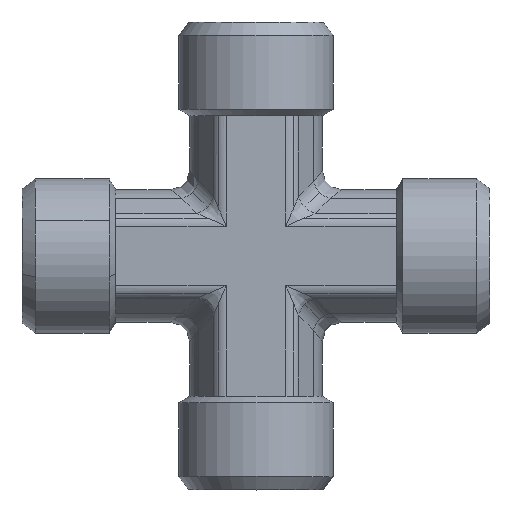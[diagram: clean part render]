
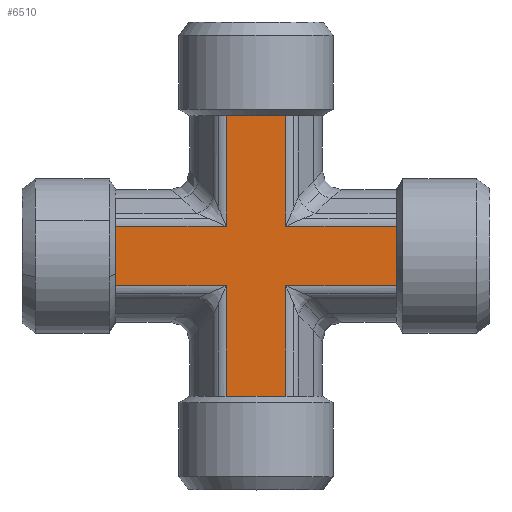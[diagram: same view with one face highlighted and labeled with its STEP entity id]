
A CAD part, top view. The second image highlights one B-rep face of the part: STEP entity #6510.
In plain terms, the highlighted planar face has unit normal (0, 0, 1) as drawn and (0, -1, 0) by its records, which use the part's own axes.
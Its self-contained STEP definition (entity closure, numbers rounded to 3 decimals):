
#361=CARTESIAN_POINT('',(-1.44,-6.8,3.06));
#362=VERTEX_POINT('',#361);
#370=CARTESIAN_POINT('',(9.9,-6.8,3.06));
#371=VERTEX_POINT('',#370);
#372=CARTESIAN_POINT('',(-1.44,-6.8,3.06));
#373=DIRECTION('',(1.0,0.0,0.0));
#374=VECTOR('',#373,11.34);
#375=LINE('',#372,#374);
#376=EDGE_CURVE('',#362,#371,#375,.T.);
#445=CARTESIAN_POINT('',(-1.44,-6.8,-3.06));
#446=VERTEX_POINT('',#445);
#454=CARTESIAN_POINT('',(-1.44,-6.8,-14.4));
#455=VERTEX_POINT('',#454);
#456=CARTESIAN_POINT('',(-1.44,-6.8,-3.06));
#457=DIRECTION('',(0.0,0.0,-1.0));
#458=VECTOR('',#457,11.34);
#459=LINE('',#456,#458);
#460=EDGE_CURVE('',#446,#455,#459,.T.);
#487=CARTESIAN_POINT('',(-7.56,-6.8,3.06));
#488=VERTEX_POINT('',#487);
#496=CARTESIAN_POINT('',(-7.56,-6.8,14.4));
#497=VERTEX_POINT('',#496);
#498=CARTESIAN_POINT('',(-7.56,-6.8,3.06));
#499=DIRECTION('',(0.0,0.0,1.0));
#500=VECTOR('',#499,11.34);
#501=LINE('',#498,#500);
#502=EDGE_CURVE('',#488,#497,#501,.T.);
#529=CARTESIAN_POINT('',(-18.9,-6.8,3.06));
#530=VERTEX_POINT('',#529);
#538=CARTESIAN_POINT('',(-18.9,-6.8,3.06));
#539=DIRECTION('',(1.0,0.0,0.0));
#540=VECTOR('',#539,11.34);
#541=LINE('',#538,#540);
#542=EDGE_CURVE('',#530,#488,#541,.T.);
#611=CARTESIAN_POINT('',(-7.56,-6.8,-3.06));
#612=VERTEX_POINT('',#611);
#620=CARTESIAN_POINT('',(-18.9,-6.8,-3.06));
#621=VERTEX_POINT('',#620);
#622=CARTESIAN_POINT('',(-7.56,-6.8,-3.06));
#623=DIRECTION('',(-1.0,0.0,0.0));
#624=VECTOR('',#623,11.34);
#625=LINE('',#622,#624);
#626=EDGE_CURVE('',#612,#621,#625,.T.);
#1520=CARTESIAN_POINT('',(-18.9,-6.8,0.));
#1521=VERTEX_POINT('',#1520);
#1821=CARTESIAN_POINT('',(-4.5,-6.8,14.4));
#1822=VERTEX_POINT('',#1821);
#2173=CARTESIAN_POINT('',(9.9,-6.8,0.));
#2174=VERTEX_POINT('',#2173);
#3138=CARTESIAN_POINT('',(-4.5,-6.8,-14.4));
#3139=VERTEX_POINT('',#3138);
#3262=CARTESIAN_POINT('',(-4.5,-6.8,-14.4));
#3263=DIRECTION('',(1.0,0.0,0.0));
#3264=VECTOR('',#3263,3.06);
#3265=LINE('',#3262,#3264);
#3266=EDGE_CURVE('',#3139,#455,#3265,.T.);
#3277=CARTESIAN_POINT('',(-7.56,-6.8,-14.4));
#3278=VERTEX_POINT('',#3277);
#3279=CARTESIAN_POINT('',(-7.56,-6.8,-14.4));
#3280=DIRECTION('',(1.0,0.0,0.0));
#3281=VECTOR('',#3280,3.06);
#3282=LINE('',#3279,#3281);
#3283=EDGE_CURVE('',#3278,#3139,#3282,.T.);
#3568=CARTESIAN_POINT('',(9.9,-6.8,-3.06));
#3569=VERTEX_POINT('',#3568);
#3570=CARTESIAN_POINT('',(9.9,-6.8,-3.06));
#3571=DIRECTION('',(0.0,0.0,1.0));
#3572=VECTOR('',#3571,3.06);
#3573=LINE('',#3570,#3572);
#3574=EDGE_CURVE('',#3569,#2174,#3573,.T.);
#3615=CARTESIAN_POINT('',(9.9,-6.8,0.));
#3616=DIRECTION('',(0.0,0.0,1.0));
#3617=VECTOR('',#3616,3.06);
#3618=LINE('',#3615,#3617);
#3619=EDGE_CURVE('',#2174,#371,#3618,.T.);
#3932=CARTESIAN_POINT('',(-1.44,-6.8,14.4));
#3933=VERTEX_POINT('',#3932);
#3934=CARTESIAN_POINT('',(-1.44,-6.8,14.4));
#3935=DIRECTION('',(-1.0,0.0,0.0));
#3936=VECTOR('',#3935,3.06);
#3937=LINE('',#3934,#3936);
#3938=EDGE_CURVE('',#3933,#1822,#3937,.T.);
#3979=CARTESIAN_POINT('',(-4.5,-6.8,14.4));
#3980=DIRECTION('',(-1.0,0.0,0.0));
#3981=VECTOR('',#3980,3.06);
#3982=LINE('',#3979,#3981);
#3983=EDGE_CURVE('',#1822,#497,#3982,.T.);
#4277=CARTESIAN_POINT('',(-18.9,-6.8,3.06));
#4278=DIRECTION('',(0.0,0.0,-1.0));
#4279=VECTOR('',#4278,3.06);
#4280=LINE('',#4277,#4279);
#4281=EDGE_CURVE('',#530,#1521,#4280,.T.);
#4324=CARTESIAN_POINT('',(-18.9,-6.8,0.));
#4325=DIRECTION('',(0.0,0.0,-1.0));
#4326=VECTOR('',#4325,3.06);
#4327=LINE('',#4324,#4326);
#4328=EDGE_CURVE('',#1521,#621,#4327,.T.);
#6472=CARTESIAN_POINT('',(-4.5,-6.8,-3.926));
#6473=DIRECTION('',(0.0,-1.0,0.0));
#6474=DIRECTION('',(0.0,0.0,-1.0));
#6475=AXIS2_PLACEMENT_3D('',#6472,#6473,#6474);
#6476=PLANE('',#6475);
#6477=ORIENTED_EDGE('',*,*,#626,.F.);
#6478=CARTESIAN_POINT('',(-7.56,-6.8,-3.06));
#6479=DIRECTION('',(0.0,0.0,-1.0));
#6480=VECTOR('',#6479,11.34);
#6481=LINE('',#6478,#6480);
#6482=EDGE_CURVE('',#612,#3278,#6481,.T.);
#6483=ORIENTED_EDGE('',*,*,#6482,.T.);
#6484=ORIENTED_EDGE('',*,*,#3283,.T.);
#6485=ORIENTED_EDGE('',*,*,#3266,.T.);
#6486=ORIENTED_EDGE('',*,*,#460,.F.);
#6487=CARTESIAN_POINT('',(-1.44,-6.8,-3.06));
#6488=DIRECTION('',(1.0,0.0,0.0));
#6489=VECTOR('',#6488,11.34);
#6490=LINE('',#6487,#6489);
#6491=EDGE_CURVE('',#446,#3569,#6490,.T.);
#6492=ORIENTED_EDGE('',*,*,#6491,.T.);
#6493=ORIENTED_EDGE('',*,*,#3574,.T.);
#6494=ORIENTED_EDGE('',*,*,#3619,.T.);
#6495=ORIENTED_EDGE('',*,*,#376,.F.);
#6496=CARTESIAN_POINT('',(-1.44,-6.8,3.06));
#6497=DIRECTION('',(0.0,0.0,1.0));
#6498=VECTOR('',#6497,11.34);
#6499=LINE('',#6496,#6498);
#6500=EDGE_CURVE('',#362,#3933,#6499,.T.);
#6501=ORIENTED_EDGE('',*,*,#6500,.T.);
#6502=ORIENTED_EDGE('',*,*,#3938,.T.);
#6503=ORIENTED_EDGE('',*,*,#3983,.T.);
#6504=ORIENTED_EDGE('',*,*,#502,.F.);
#6505=ORIENTED_EDGE('',*,*,#542,.F.);
#6506=ORIENTED_EDGE('',*,*,#4281,.T.);
#6507=ORIENTED_EDGE('',*,*,#4328,.T.);
#6508=EDGE_LOOP('',(#6477,#6483,#6484,#6485,#6486,#6492,#6493,#6494,#6495,#6501,#6502,#6503,#6504,#6505,#6506,#6507));
#6509=FACE_OUTER_BOUND('',#6508,.T.);
#6510=ADVANCED_FACE('',(#6509),#6476,.T.);
